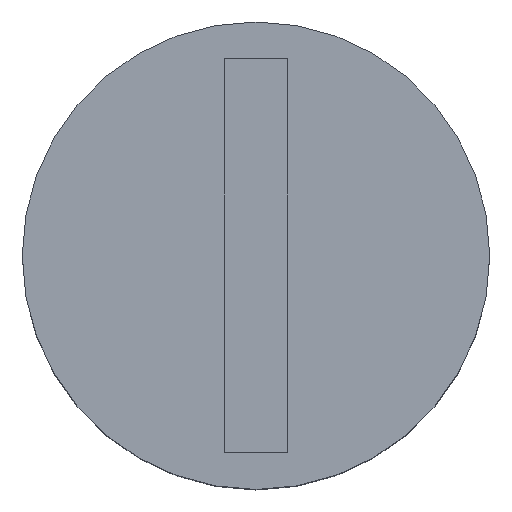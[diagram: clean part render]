
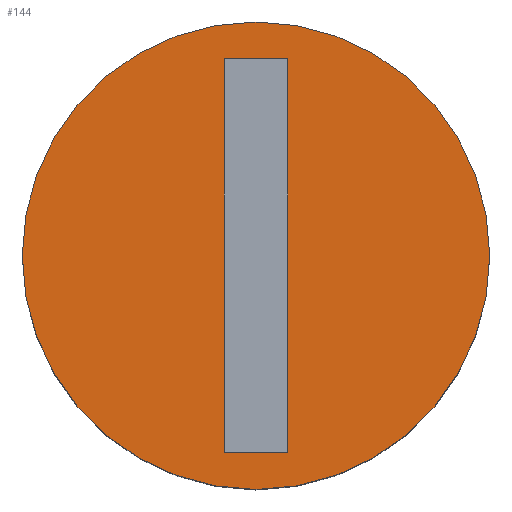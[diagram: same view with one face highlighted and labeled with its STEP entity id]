
A CAD part, top view. The second image highlights one B-rep face of the part: STEP entity #144.
In plain terms, the highlighted planar face has unit normal (0, 0, 1).
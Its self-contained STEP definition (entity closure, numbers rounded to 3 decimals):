
#24 = VERTEX_POINT('',#25);
#25 = CARTESIAN_POINT('',(-19.675,28.575,38.8));
#32 = CYLINDRICAL_SURFACE('',#33,8.9);
#33 = AXIS2_PLACEMENT_3D('',#34,#35,#36);
#34 = CARTESIAN_POINT('',(-28.575,28.575,27.3));
#35 = DIRECTION('',(-0.,-0.,-1.));
#36 = DIRECTION('',(1.,0.,0.));
#51 = EDGE_CURVE('',#24,#24,#52,.T.);
#52 = SURFACE_CURVE('',#53,(#58,#65),.PCURVE_S1.);
#53 = CIRCLE('',#54,8.9);
#54 = AXIS2_PLACEMENT_3D('',#55,#56,#57);
#55 = CARTESIAN_POINT('',(-28.575,28.575,38.8));
#56 = DIRECTION('',(0.,0.,1.));
#57 = DIRECTION('',(1.,0.,0.));
#58 = PCURVE('',#32,#59);
#59 = DEFINITIONAL_REPRESENTATION('',(#60),#64);
#60 = LINE('',#61,#62);
#61 = CARTESIAN_POINT('',(-0.,-11.5));
#62 = VECTOR('',#63,1.);
#63 = DIRECTION('',(-1.,0.));
#64 = ( GEOMETRIC_REPRESENTATION_CONTEXT(2) 
PARAMETRIC_REPRESENTATION_CONTEXT() REPRESENTATION_CONTEXT('2D SPACE',''
  ) );
#65 = PCURVE('',#66,#71);
#66 = PLANE('',#67);
#67 = AXIS2_PLACEMENT_3D('',#68,#69,#70);
#68 = CARTESIAN_POINT('',(-28.575,28.575,38.8));
#69 = DIRECTION('',(0.,0.,1.));
#70 = DIRECTION('',(1.,0.,-0.));
#71 = DEFINITIONAL_REPRESENTATION('',(#72),#76);
#72 = CIRCLE('',#73,8.9);
#73 = AXIS2_PLACEMENT_2D('',#74,#75);
#74 = CARTESIAN_POINT('',(0.,0.));
#75 = DIRECTION('',(1.,0.));
#76 = ( GEOMETRIC_REPRESENTATION_CONTEXT(2) 
PARAMETRIC_REPRESENTATION_CONTEXT() REPRESENTATION_CONTEXT('2D SPACE',''
  ) );
#144 = ADVANCED_FACE('',(#145,#148),#66,.T.);
#145 = FACE_BOUND('',#146,.T.);
#146 = EDGE_LOOP('',(#147));
#147 = ORIENTED_EDGE('',*,*,#51,.T.);
#148 = FACE_BOUND('',#149,.T.);
#149 = EDGE_LOOP('',(#150,#180,#208,#236));
#150 = ORIENTED_EDGE('',*,*,#151,.T.);
#151 = EDGE_CURVE('',#152,#154,#156,.T.);
#152 = VERTEX_POINT('',#153);
#153 = CARTESIAN_POINT('',(-29.775,21.075,38.8));
#154 = VERTEX_POINT('',#155);
#155 = CARTESIAN_POINT('',(-29.775,36.075,38.8));
#156 = SURFACE_CURVE('',#157,(#161,#168),.PCURVE_S1.);
#157 = LINE('',#158,#159);
#158 = CARTESIAN_POINT('',(-29.775,21.075,38.8));
#159 = VECTOR('',#160,1.);
#160 = DIRECTION('',(0.,1.,0.));
#161 = PCURVE('',#66,#162);
#162 = DEFINITIONAL_REPRESENTATION('',(#163),#167);
#163 = LINE('',#164,#165);
#164 = CARTESIAN_POINT('',(-1.2,-7.5));
#165 = VECTOR('',#166,1.);
#166 = DIRECTION('',(0.,1.));
#167 = ( GEOMETRIC_REPRESENTATION_CONTEXT(2) 
PARAMETRIC_REPRESENTATION_CONTEXT() REPRESENTATION_CONTEXT('2D SPACE',''
  ) );
#168 = PCURVE('',#169,#174);
#169 = PLANE('',#170);
#170 = AXIS2_PLACEMENT_3D('',#171,#172,#173);
#171 = CARTESIAN_POINT('',(-29.775,21.075,38.8));
#172 = DIRECTION('',(1.,0.,0.));
#173 = DIRECTION('',(0.,0.,1.));
#174 = DEFINITIONAL_REPRESENTATION('',(#175),#179);
#175 = LINE('',#176,#177);
#176 = CARTESIAN_POINT('',(0.,0.));
#177 = VECTOR('',#178,1.);
#178 = DIRECTION('',(0.,-1.));
#179 = ( GEOMETRIC_REPRESENTATION_CONTEXT(2) 
PARAMETRIC_REPRESENTATION_CONTEXT() REPRESENTATION_CONTEXT('2D SPACE',''
  ) );
#180 = ORIENTED_EDGE('',*,*,#181,.T.);
#181 = EDGE_CURVE('',#154,#182,#184,.T.);
#182 = VERTEX_POINT('',#183);
#183 = CARTESIAN_POINT('',(-27.375,36.075,38.8));
#184 = SURFACE_CURVE('',#185,(#189,#196),.PCURVE_S1.);
#185 = LINE('',#186,#187);
#186 = CARTESIAN_POINT('',(-29.775,36.075,38.8));
#187 = VECTOR('',#188,1.);
#188 = DIRECTION('',(1.,0.,0.));
#189 = PCURVE('',#66,#190);
#190 = DEFINITIONAL_REPRESENTATION('',(#191),#195);
#191 = LINE('',#192,#193);
#192 = CARTESIAN_POINT('',(-1.2,7.5));
#193 = VECTOR('',#194,1.);
#194 = DIRECTION('',(1.,0.));
#195 = ( GEOMETRIC_REPRESENTATION_CONTEXT(2) 
PARAMETRIC_REPRESENTATION_CONTEXT() REPRESENTATION_CONTEXT('2D SPACE',''
  ) );
#196 = PCURVE('',#197,#202);
#197 = PLANE('',#198);
#198 = AXIS2_PLACEMENT_3D('',#199,#200,#201);
#199 = CARTESIAN_POINT('',(-29.775,36.075,38.8));
#200 = DIRECTION('',(0.,1.,0.));
#201 = DIRECTION('',(0.,0.,1.));
#202 = DEFINITIONAL_REPRESENTATION('',(#203),#207);
#203 = LINE('',#204,#205);
#204 = CARTESIAN_POINT('',(0.,0.));
#205 = VECTOR('',#206,1.);
#206 = DIRECTION('',(0.,1.));
#207 = ( GEOMETRIC_REPRESENTATION_CONTEXT(2) 
PARAMETRIC_REPRESENTATION_CONTEXT() REPRESENTATION_CONTEXT('2D SPACE',''
  ) );
#208 = ORIENTED_EDGE('',*,*,#209,.F.);
#209 = EDGE_CURVE('',#210,#182,#212,.T.);
#210 = VERTEX_POINT('',#211);
#211 = CARTESIAN_POINT('',(-27.375,21.075,38.8));
#212 = SURFACE_CURVE('',#213,(#217,#224),.PCURVE_S1.);
#213 = LINE('',#214,#215);
#214 = CARTESIAN_POINT('',(-27.375,21.075,38.8));
#215 = VECTOR('',#216,1.);
#216 = DIRECTION('',(0.,1.,0.));
#217 = PCURVE('',#66,#218);
#218 = DEFINITIONAL_REPRESENTATION('',(#219),#223);
#219 = LINE('',#220,#221);
#220 = CARTESIAN_POINT('',(1.2,-7.5));
#221 = VECTOR('',#222,1.);
#222 = DIRECTION('',(0.,1.));
#223 = ( GEOMETRIC_REPRESENTATION_CONTEXT(2) 
PARAMETRIC_REPRESENTATION_CONTEXT() REPRESENTATION_CONTEXT('2D SPACE',''
  ) );
#224 = PCURVE('',#225,#230);
#225 = PLANE('',#226);
#226 = AXIS2_PLACEMENT_3D('',#227,#228,#229);
#227 = CARTESIAN_POINT('',(-27.375,21.075,38.8));
#228 = DIRECTION('',(1.,0.,0.));
#229 = DIRECTION('',(0.,0.,1.));
#230 = DEFINITIONAL_REPRESENTATION('',(#231),#235);
#231 = LINE('',#232,#233);
#232 = CARTESIAN_POINT('',(0.,0.));
#233 = VECTOR('',#234,1.);
#234 = DIRECTION('',(0.,-1.));
#235 = ( GEOMETRIC_REPRESENTATION_CONTEXT(2) 
PARAMETRIC_REPRESENTATION_CONTEXT() REPRESENTATION_CONTEXT('2D SPACE',''
  ) );
#236 = ORIENTED_EDGE('',*,*,#237,.F.);
#237 = EDGE_CURVE('',#152,#210,#238,.T.);
#238 = SURFACE_CURVE('',#239,(#243,#250),.PCURVE_S1.);
#239 = LINE('',#240,#241);
#240 = CARTESIAN_POINT('',(-29.775,21.075,38.8));
#241 = VECTOR('',#242,1.);
#242 = DIRECTION('',(1.,0.,0.));
#243 = PCURVE('',#66,#244);
#244 = DEFINITIONAL_REPRESENTATION('',(#245),#249);
#245 = LINE('',#246,#247);
#246 = CARTESIAN_POINT('',(-1.2,-7.5));
#247 = VECTOR('',#248,1.);
#248 = DIRECTION('',(1.,0.));
#249 = ( GEOMETRIC_REPRESENTATION_CONTEXT(2) 
PARAMETRIC_REPRESENTATION_CONTEXT() REPRESENTATION_CONTEXT('2D SPACE',''
  ) );
#250 = PCURVE('',#251,#256);
#251 = PLANE('',#252);
#252 = AXIS2_PLACEMENT_3D('',#253,#254,#255);
#253 = CARTESIAN_POINT('',(-29.775,21.075,38.8));
#254 = DIRECTION('',(0.,1.,0.));
#255 = DIRECTION('',(0.,0.,1.));
#256 = DEFINITIONAL_REPRESENTATION('',(#257),#261);
#257 = LINE('',#258,#259);
#258 = CARTESIAN_POINT('',(0.,0.));
#259 = VECTOR('',#260,1.);
#260 = DIRECTION('',(0.,1.));
#261 = ( GEOMETRIC_REPRESENTATION_CONTEXT(2) 
PARAMETRIC_REPRESENTATION_CONTEXT() REPRESENTATION_CONTEXT('2D SPACE',''
  ) );
